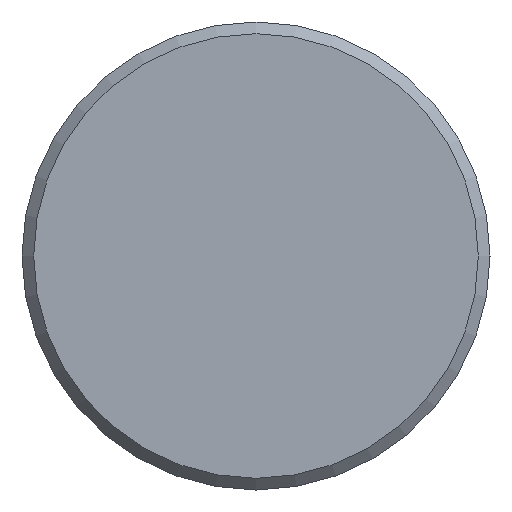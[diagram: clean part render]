
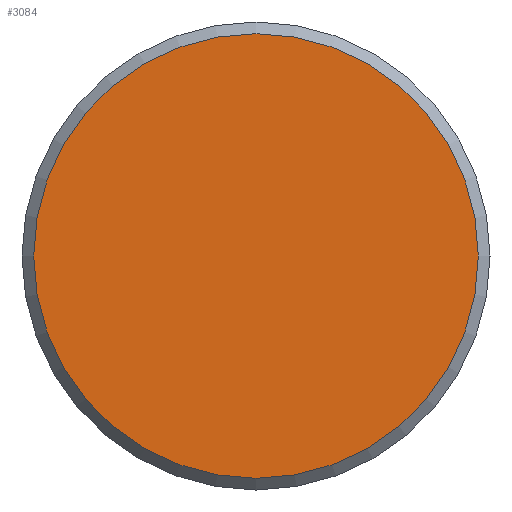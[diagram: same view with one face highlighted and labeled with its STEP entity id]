
A CAD part, left-side view. The second image highlights one B-rep face of the part: STEP entity #3084.
In plain terms, the highlighted planar face has unit normal (-1, 0, 0).
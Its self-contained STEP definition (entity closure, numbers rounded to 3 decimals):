
#1113=PLANE('',#2838);
#1155=ORIENTED_EDGE('',*,*,#1569,.F.);
#1361=CIRCLE('',#2837,9.5);
#1465=VERTEX_POINT('',#2521);
#1569=EDGE_CURVE('',#1465,#1465,#1361,.T.);
#1675=EDGE_LOOP('',(#1155));
#1883=FACE_BOUND('',#1675,.T.);
#2095=DIRECTION('',(1.,0.,0.));
#2096=DIRECTION('',(0.,9.5,0.));
#2097=DIRECTION('',(-1.,0.,0.));
#2098=DIRECTION('',(0.,1.,0.));
#2521=CARTESIAN_POINT('',(3.131,202.102,0.));
#2522=CARTESIAN_POINT('',(3.131,192.602,0.));
#2523=CARTESIAN_POINT('',(3.131,192.602,0.));
#2837=AXIS2_PLACEMENT_3D('',#2522,#2095,#2096);
#2838=AXIS2_PLACEMENT_3D('',#2523,#2097,#2098);
#3084=ADVANCED_FACE('',(#1883),#1113,.T.);
